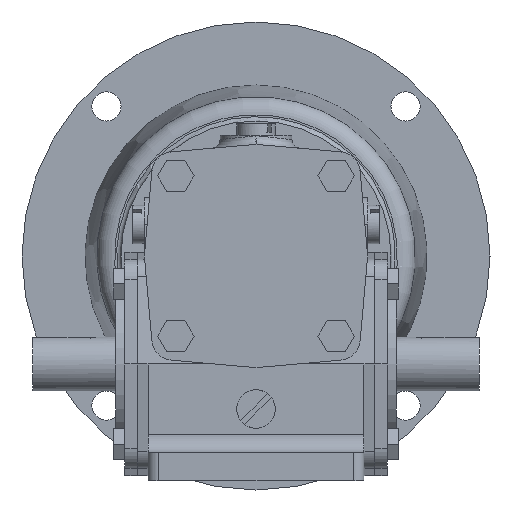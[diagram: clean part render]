
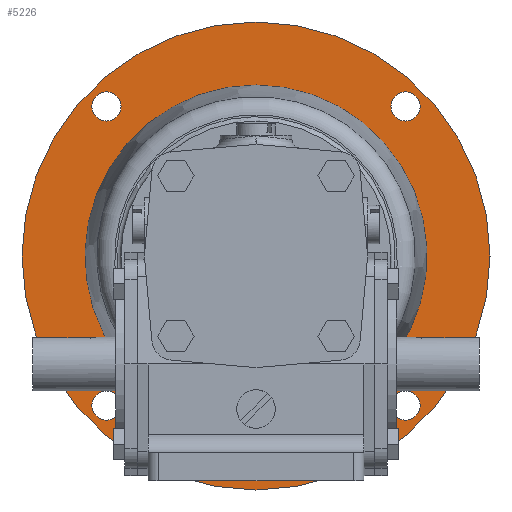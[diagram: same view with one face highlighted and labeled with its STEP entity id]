
A CAD part, left-side view. The second image highlights one B-rep face of the part: STEP entity #5226.
In plain terms, the highlighted planar face has unit normal (-1, 0, 0).
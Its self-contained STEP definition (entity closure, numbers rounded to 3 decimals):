
#76=CIRCLE('',#6646,60.327);
#77=CIRCLE('',#6648,5.159);
#78=CIRCLE('',#6649,5.159);
#79=CIRCLE('',#6650,5.159);
#80=CIRCLE('',#6651,5.159);
#81=CIRCLE('',#6652,82.55);
#1854=ORIENTED_EDGE('',*,*,#2890,.F.);
#1855=ORIENTED_EDGE('',*,*,#2891,.F.);
#1856=ORIENTED_EDGE('',*,*,#2892,.F.);
#1857=ORIENTED_EDGE('',*,*,#2893,.F.);
#1858=ORIENTED_EDGE('',*,*,#2894,.T.);
#1859=ORIENTED_EDGE('',*,*,#2889,.F.);
#2889=EDGE_CURVE('',#3487,#3487,#76,.T.);
#2890=EDGE_CURVE('',#3488,#3488,#77,.T.);
#2891=EDGE_CURVE('',#3489,#3489,#78,.T.);
#2892=EDGE_CURVE('',#3490,#3490,#79,.T.);
#2893=EDGE_CURVE('',#3491,#3491,#80,.T.);
#2894=EDGE_CURVE('',#3492,#3492,#81,.T.);
#3487=VERTEX_POINT('',#11542);
#3488=VERTEX_POINT('',#11545);
#3489=VERTEX_POINT('',#11547);
#3490=VERTEX_POINT('',#11549);
#3491=VERTEX_POINT('',#11551);
#3492=VERTEX_POINT('',#11553);
#4219=EDGE_LOOP('',(#1854));
#4220=EDGE_LOOP('',(#1855));
#4221=EDGE_LOOP('',(#1856));
#4222=EDGE_LOOP('',(#1857));
#4223=EDGE_LOOP('',(#1858));
#4224=EDGE_LOOP('',(#1859));
#4638=FACE_BOUND('',#4219,.T.);
#4639=FACE_BOUND('',#4220,.T.);
#4640=FACE_BOUND('',#4221,.T.);
#4641=FACE_BOUND('',#4222,.T.);
#4642=FACE_BOUND('',#4223,.T.);
#4643=FACE_BOUND('',#4224,.T.);
#4929=PLANE('',#6647);
#5226=ADVANCED_FACE('',(#4638,#4639,#4640,#4641,#4642,#4643),#4929,.T.);
#6646=AXIS2_PLACEMENT_3D('',#11541,#7466,#7467);
#6647=AXIS2_PLACEMENT_3D('',#11543,#7468,#7469);
#6648=AXIS2_PLACEMENT_3D('',#11544,#7470,#7471);
#6649=AXIS2_PLACEMENT_3D('',#11546,#7472,#7473);
#6650=AXIS2_PLACEMENT_3D('',#11548,#7474,#7475);
#6651=AXIS2_PLACEMENT_3D('',#11550,#7476,#7477);
#6652=AXIS2_PLACEMENT_3D('',#11552,#7478,#7479);
#7466=DIRECTION('',(-1.,0.,0.));
#7467=DIRECTION('',(0.,0.,1.));
#7468=DIRECTION('',(-1.,0.,0.));
#7469=DIRECTION('',(0.,0.,1.));
#7470=DIRECTION('',(-1.,0.,0.));
#7471=DIRECTION('',(0.,0.,1.));
#7472=DIRECTION('',(-1.,0.,0.));
#7473=DIRECTION('',(0.,0.,1.));
#7474=DIRECTION('',(-1.,0.,0.));
#7475=DIRECTION('',(0.,0.,1.));
#7476=DIRECTION('',(-1.,0.,0.));
#7477=DIRECTION('',(0.,0.,1.));
#7478=DIRECTION('',(-1.,0.,0.));
#7479=DIRECTION('',(0.,0.,1.));
#11541=CARTESIAN_POINT('',(132.028,0.,0.));
#11542=CARTESIAN_POINT('',(132.028,0.,60.327));
#11543=CARTESIAN_POINT('',(132.028,0.,60.327));
#11544=CARTESIAN_POINT('',(132.028,-52.759,52.759));
#11545=CARTESIAN_POINT('',(132.028,-52.759,57.918));
#11546=CARTESIAN_POINT('',(132.028,-52.759,-52.759));
#11547=CARTESIAN_POINT('',(132.028,-52.759,-47.6));
#11548=CARTESIAN_POINT('',(132.028,52.759,-52.759));
#11549=CARTESIAN_POINT('',(132.028,52.759,-47.6));
#11550=CARTESIAN_POINT('',(132.028,52.759,52.759));
#11551=CARTESIAN_POINT('',(132.028,52.759,57.918));
#11552=CARTESIAN_POINT('',(132.028,0.,0.));
#11553=CARTESIAN_POINT('',(132.028,0.,82.55));
